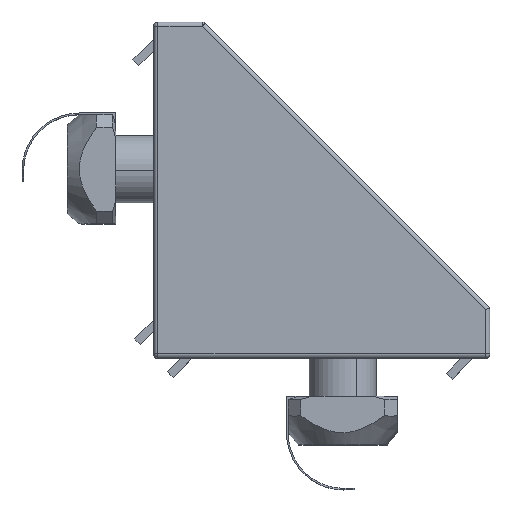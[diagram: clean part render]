
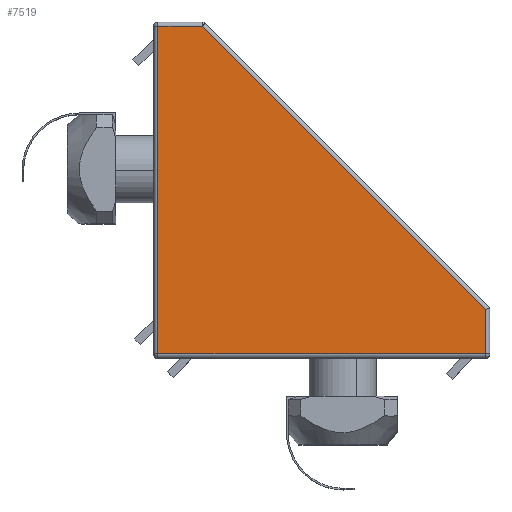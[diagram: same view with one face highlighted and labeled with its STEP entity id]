
A CAD part, top view. The second image highlights one B-rep face of the part: STEP entity #7519.
In plain terms, the highlighted planar face has unit normal (0, 0, 1).
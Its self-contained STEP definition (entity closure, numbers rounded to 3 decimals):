
#10 = LINE ( 'NONE', #1979, #3604 ) ;
#328 = EDGE_CURVE ( 'NONE', #4158, #5027, #11598, .T. ) ;
#799 = CARTESIAN_POINT ( 'NONE',  ( 22.319, -17.079, -17.365 ) ) ;
#916 = DIRECTION ( 'NONE',  ( -1., 0., 0. ) ) ;
#1736 = CARTESIAN_POINT ( 'NONE',  ( -16.681, 22.421, -17.365 ) ) ;
#1961 = CARTESIAN_POINT ( 'NONE',  ( -17.181, -17.079, -17.365 ) ) ;
#1979 = CARTESIAN_POINT ( 'NONE',  ( -17.181, 22.421, -17.365 ) ) ;
#2075 = EDGE_CURVE ( 'NONE', #5728, #4158, #5548, .T. ) ;
#2157 = LINE ( 'NONE', #6088, #3028 ) ;
#3028 = VECTOR ( 'NONE', #8247, 1000. ) ;
#3604 = VECTOR ( 'NONE', #8977, 1000. ) ;
#3762 = VECTOR ( 'NONE', #8713, 1000. ) ;
#3768 = VECTOR ( 'NONE', #5413, 1000. ) ;
#3778 = FACE_OUTER_BOUND ( 'NONE', #9589, .T. ) ;
#4158 = VERTEX_POINT ( 'NONE', #4415 ) ;
#4415 = CARTESIAN_POINT ( 'NONE',  ( -16.681, -16.579, -17.365 ) ) ;
#4424 = CARTESIAN_POINT ( 'NONE',  ( 22.319, -11.286, -17.365 ) ) ;
#4634 = EDGE_CURVE ( 'NONE', #12183, #5512, #2157, .T. ) ;
#5027 = VERTEX_POINT ( 'NONE', #5848 ) ;
#5284 = ORIENTED_EDGE ( 'NONE', *, *, #328, .T. ) ;
#5413 = DIRECTION ( 'NONE',  ( 0., -1., 0. ) ) ;
#5512 = VERTEX_POINT ( 'NONE', #10893 ) ;
#5533 = CARTESIAN_POINT ( 'NONE',  ( -17.181, -16.579, -17.365 ) ) ;
#5548 = LINE ( 'NONE', #8470, #3768 ) ;
#5728 = VERTEX_POINT ( 'NONE', #1736 ) ;
#5848 = CARTESIAN_POINT ( 'NONE',  ( 22.319, -16.579, -17.365 ) ) ;
#5849 = AXIS2_PLACEMENT_3D ( 'NONE', #1961, #12723, #916 ) ;
#6088 = CARTESIAN_POINT ( 'NONE',  ( 5.466, 5.568, -17.365 ) ) ;
#6224 = ORIENTED_EDGE ( 'NONE', *, *, #7224, .T. ) ;
#6836 = DIRECTION ( 'NONE',  ( 0., 1., 0. ) ) ;
#6943 = ORIENTED_EDGE ( 'NONE', *, *, #2075, .T. ) ;
#7224 = EDGE_CURVE ( 'NONE', #5027, #12183, #9775, .T. ) ;
#7519 = ADVANCED_FACE ( 'NONE', ( #3778 ), #11729, .F. ) ;
#8247 = DIRECTION ( 'NONE',  ( -0.707, 0.707, 0. ) ) ;
#8470 = CARTESIAN_POINT ( 'NONE',  ( -16.681, -17.079, -17.365 ) ) ;
#8713 = DIRECTION ( 'NONE',  ( 1., 0., 0. ) ) ;
#8779 = ORIENTED_EDGE ( 'NONE', *, *, #4634, .T. ) ;
#8829 = EDGE_CURVE ( 'NONE', #5512, #5728, #10, .T. ) ;
#8977 = DIRECTION ( 'NONE',  ( -1., 0., 0. ) ) ;
#9589 = EDGE_LOOP ( 'NONE', ( #5284, #6224, #8779, #10878, #6943 ) ) ;
#9775 = LINE ( 'NONE', #799, #12542 ) ;
#10878 = ORIENTED_EDGE ( 'NONE', *, *, #8829, .T. ) ;
#10893 = CARTESIAN_POINT ( 'NONE',  ( -11.388, 22.421, -17.365 ) ) ;
#11598 = LINE ( 'NONE', #5533, #3762 ) ;
#11729 = PLANE ( 'NONE',  #5849 ) ;
#12183 = VERTEX_POINT ( 'NONE', #4424 ) ;
#12542 = VECTOR ( 'NONE', #6836, 1000. ) ;
#12723 = DIRECTION ( 'NONE',  ( 0., 0., -1. ) ) ;
